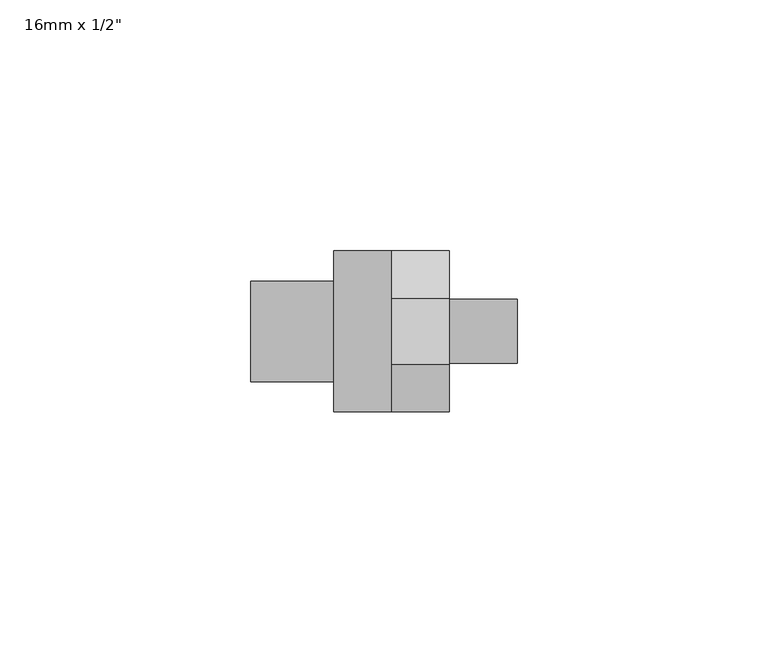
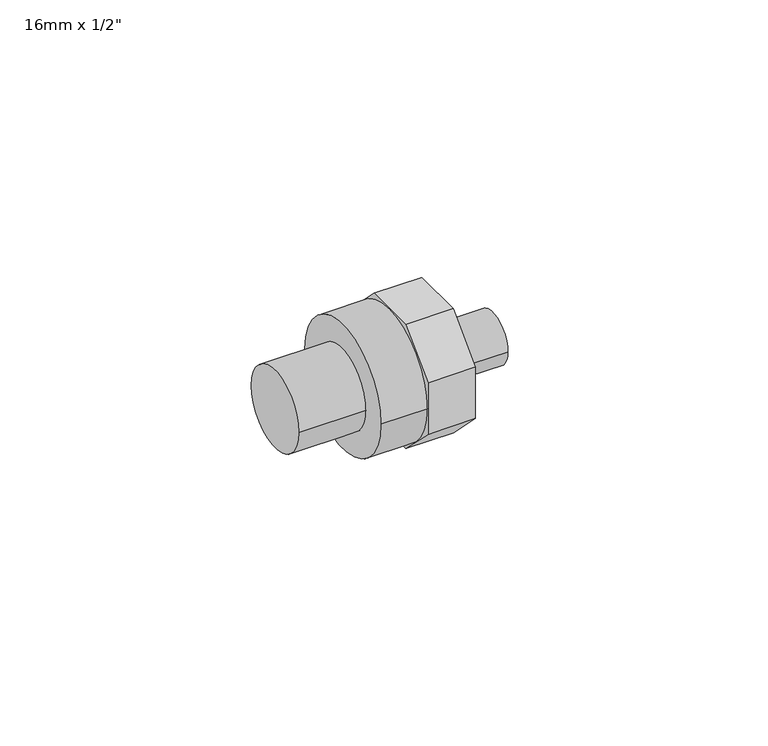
"""IFC4 building model written with IfcOpenShell, lengths in millimetres: pipe fitting geometry."""

import ifcopenshell
import ifcopenshell.guid

model = None  # the IFC model being written
_history = None  # IfcOwnerHistory: only IFC2X3 demands one
_inside = {}  # id of a spatial element -> (the spatial element, [elements in it])
_under = {}  # id of a project, library or spatial element -> (it, [spatial elements below it])
_declared = {}  # id of a project -> (the project, [libraries it declares])
_typed = {}  # id of a type object -> (the type object, [elements of that type])
_made_of = {}  # id of a material, layer set ... -> (it, [elements and type objects made of it])


def new_model(schema):
    """Start an empty IFC model of exactly this schema.

    Asked for "IFC4X3", IfcOpenShell would pick the latest addendum, in which some entities
    have other attributes; the version numbers below select the first issue.
    IFC2X3 requires an IfcOwnerHistory on every rooted entity: one is made here for all.
    """
    global model, _history
    if schema == "IFC4X3":
        model = ifcopenshell.file(schema_version=(4, 3, 0, 0))
    else:
        model = ifcopenshell.file(schema=schema)
    _inside.clear()
    _under.clear()
    _declared.clear()
    _typed.clear()
    _made_of.clear()
    _history = None
    if model.schema == "IFC2X3":
        org = make("IfcOrganization", Name="unknown")
        user = make(
            "IfcPersonAndOrganization",
            ThePerson=make("IfcPerson", FamilyName="unknown"),
            TheOrganization=org,
        )
        app = make(
            "IfcApplication",
            ApplicationDeveloper=org,
            Version="unknown",
            ApplicationFullName="unknown",
            ApplicationIdentifier="unknown",
        )
        _history = make(
            "IfcOwnerHistory",
            OwningUser=user,
            OwningApplication=app,
            ChangeAction="ADDED",
            CreationDate=0,
        )
    return model


def make(cls, **values):
    """One entity of the class cls with the attributes given. An attribute that is None is left unset."""
    return model.create_entity(
        cls, **{name: value for name, value in values.items() if value is not None}
    )


def rooted(cls, **values):
    """An entity with a GlobalId (a new one), such as an element, a storey or a relation."""
    return make(cls, GlobalId=ifcopenshell.guid.new(), OwnerHistory=_history, **values)


def si_unit(unit_type, name, prefix=None):
    """IfcSIUnit, for example si_unit("LENGTHUNIT", "METRE", prefix="MILLI")."""
    return make("IfcSIUnit", UnitType=unit_type, Prefix=prefix, Name=name)


def assignment(units):
    """IfcUnitAssignment: the units of a project."""
    return None if units is None else make("IfcUnitAssignment", Units=units)


def point(xyz):
    """IfcCartesianPoint."""
    return None if xyz is None else make("IfcCartesianPoint", Coordinates=xyz)


def direction(xyz):
    """IfcDirection."""
    return None if xyz is None else make("IfcDirection", DirectionRatios=xyz)


def frame(location, z_axis=None, x_axis=None):
    """IfcAxis2Placement3D, a coordinate frame: its origin and axes. An axis left out is left unset."""
    return make(
        "IfcAxis2Placement3D",
        Location=point(location),
        Axis=direction(z_axis),
        RefDirection=direction(x_axis),
    )


def frame_2d(location, x_axis=None):
    """IfcAxis2Placement2D, a coordinate frame in the plane: its origin and x axis."""
    return make(
        "IfcAxis2Placement2D", Location=point(location), RefDirection=direction(x_axis)
    )


def origin():
    """The frame at (0, 0, 0) with its axes left unset."""
    return frame((0.0, 0.0, 0.0))


def origin_2d():
    """The frame at (0, 0) in the plane with its x axis left unset."""
    return frame_2d((0.0, 0.0))


def place(relative_to, where):
    """IfcLocalPlacement: puts the frame where relative to a parent placement (None: the world)."""
    return make(
        "IfcLocalPlacement", PlacementRelTo=relative_to, RelativePlacement=where
    )


def context(
    kind, dimensions, precision=None, world=None, true_north=None, identifier=None
):
    """IfcGeometricRepresentationContext, for example the 3D "Model" context."""
    return make(
        "IfcGeometricRepresentationContext",
        ContextIdentifier=identifier,
        ContextType=kind,
        CoordinateSpaceDimension=dimensions,
        Precision=precision,
        WorldCoordinateSystem=world,
        TrueNorth=true_north,
    )


def project(units=None, contexts=None):
    """IfcProject with its units and contexts."""
    return rooted(
        "IfcProject",
        Name="project",
        RepresentationContexts=contexts,
        UnitsInContext=assignment(units),
    )


def spatial(cls, under=None, at=None, **own):
    """A site, building, storey or space (cls), placed at a placement, below another one or the project."""
    s = rooted(cls, ObjectPlacement=at, **own)
    if under is not None:
        _under.setdefault(under.id(), (under, []))[1].append(s)
    return s


def polyline(points):
    """IfcPolyline through the points."""
    return make("IfcPolyline", Points=[point(p) for p in points])


def circle_curve(where, radius):
    """IfcCircle in the frame where."""
    return make("IfcCircle", Position=where, Radius=radius)


def trimmed(basis, trim1, trim2, sense, master):
    """IfcTrimmedCurve: the piece of a basis curve between two trims."""
    return make(
        "IfcTrimmedCurve",
        BasisCurve=basis,
        Trim1=trim1,
        Trim2=trim2,
        SenseAgreement=sense,
        MasterRepresentation=master,
    )


def segment(curve, same_sense, transition):
    """IfcCompositeCurveSegment."""
    return make(
        "IfcCompositeCurveSegment",
        Transition=transition,
        SameSense=same_sense,
        ParentCurve=curve,
    )


def composite_curve(segments, self_intersect=None):
    """IfcCompositeCurve: segments joined end to end."""
    return make("IfcCompositeCurve", Segments=segments, SelfIntersect=self_intersect)


def outline(outer, holes=None, kind="AREA"):
    """IfcArbitraryClosedProfileDef: a profile drawn as a closed curve; with holes, ...WithVoids."""
    if holes is None:
        return make("IfcArbitraryClosedProfileDef", ProfileType=kind, OuterCurve=outer)
    return make(
        "IfcArbitraryProfileDefWithVoids",
        ProfileType=kind,
        OuterCurve=outer,
        InnerCurves=holes,
    )


def extrude(swept, where, along, depth):
    """IfcExtrudedAreaSolid: the profile swept, set in the frame where, extruded along a direction by depth."""
    return make(
        "IfcExtrudedAreaSolid",
        SweptArea=swept,
        Position=where,
        ExtrudedDirection=direction(along),
        Depth=depth,
    )


def shape(context_of_items, identifier, shape_type, items):
    """IfcShapeRepresentation: the items that make up one representation, for example the "Body"."""
    return make(
        "IfcShapeRepresentation",
        ContextOfItems=context_of_items,
        RepresentationIdentifier=identifier,
        RepresentationType=shape_type,
        Items=items,
    )


def source(mapping_origin, context_of_items, identifier, shape_type, items):
    """IfcRepresentationMap: a shape defined once, which mapped items show again and again."""
    return make(
        "IfcRepresentationMap",
        MappingOrigin=mapping_origin,
        MappedRepresentation=shape(context_of_items, identifier, shape_type, items),
    )


def transform(
    local_origin,
    x_axis=None,
    y_axis=None,
    z_axis=None,
    scale=None,
    scale2=None,
    scale3=None,
    uniform=True,
):
    """IfcCartesianTransformationOperator3D, or its non-uniform kind. x_axis, y_axis, z_axis: its Axis1, 2, 3."""
    if uniform:
        return make(
            "IfcCartesianTransformationOperator3D",
            Axis1=direction(x_axis),
            Axis2=direction(y_axis),
            LocalOrigin=point(local_origin),
            Scale=scale,
            Axis3=direction(z_axis),
        )
    return make(
        "IfcCartesianTransformationOperator3DnonUniform",
        Axis1=direction(x_axis),
        Axis2=direction(y_axis),
        LocalOrigin=point(local_origin),
        Scale=scale,
        Axis3=direction(z_axis),
        Scale2=scale2,
        Scale3=scale3,
    )


def mapped(mapping_source, mapping_target):
    """IfcMappedItem: shows the shape of a source again, moved by a transform."""
    return make(
        "IfcMappedItem", MappingSource=mapping_source, MappingTarget=mapping_target
    )


def made_of(thing, what):
    """Note that an element or type object is made of a material, layer set ...; save() writes the relation."""
    if what is not None:
        _made_of.setdefault(what.id(), (what, []))[1].append(thing)
    return thing


def element(
    cls,
    number,
    at=None,
    inside=None,
    cuts=None,
    type_object=None,
    material=None,
    context=None,
    identifier="Body",
    shape_type=None,
    held_by="IfcProductDefinitionShape",
    body=None,
    shapes=None,
    **own,
):
    """One element of the class cls, such as IfcWall. Its Tag is "e" and its number.

    at: its placement. inside: the storey or other place that contains it. cuts: it is an
    opening in that element (IfcRelVoidsElement). A single representation is given by context,
    identifier, shape_type and body (its items); several are given by shapes. held_by: the class
    of the entity that holds the representations. save() writes the other relations.
    """
    e = rooted(cls, Tag="e%d" % number, ObjectPlacement=at, **own)
    if body is not None:
        shapes = [shape(context, identifier, shape_type, body)]
    if shapes is not None:
        e.Representation = make(held_by, Representations=shapes)
    if inside is not None:
        _inside.setdefault(inside.id(), (inside, []))[1].append(e)
    if cuts is not None:
        rooted(
            "IfcRelVoidsElement", RelatingBuildingElement=cuts, RelatedOpeningElement=e
        )
    if type_object is not None:
        _typed.setdefault(type_object.id(), (type_object, []))[1].append(e)
    return made_of(e, material)


def aggregate(whole, parts):
    """IfcRelAggregates: a whole, such as a stair, and the parts it consists of."""
    return rooted("IfcRelAggregates", RelatingObject=whole, RelatedObjects=parts)


def save(model, path):
    """Write the relations noted so far, then the file.

    IfcRelAggregates (storeys below a building ...), IfcRelContainedInSpatialStructure (elements
    in a storey), IfcRelDefinesByType, IfcRelAssociatesMaterial and IfcRelDeclares: one each for
    every whole, place, type object, material and project.
    """
    for whole, parts in _under.values():
        aggregate(whole, parts)
    for where, things in _inside.values():
        rooted(
            "IfcRelContainedInSpatialStructure",
            RelatedElements=things,
            RelatingStructure=where,
        )
    for kind, things in _typed.values():
        rooted("IfcRelDefinesByType", RelatedObjects=things, RelatingType=kind)
    for what, things in _made_of.values():
        rooted("IfcRelAssociatesMaterial", RelatedObjects=things, RelatingMaterial=what)
    for by, libraries in _declared.values():
        rooted("IfcRelDeclares", RelatingContext=by, RelatedDefinitions=libraries)
    model.write(path)


def pipe_fitting_8b9ff8c4(model_context):
    return source(origin(), model_context, "Body", "SweptSolid", [
        extrude(outline(composite_curve([segment(trimmed(circle_curve(origin_2d(), 6.35), [point((-6.35, 0.0))], [point((6.35, 0.0))], False, "CARTESIAN"), True, "CONTINUOUS"), segment(trimmed(circle_curve(origin_2d(), 6.35), [point((6.35, 0.0))], [point((-6.35, 0.0))], False, "CARTESIAN"), True, "CONTINUOUS")], self_intersect=False)), frame((31.25, 0.0, 0.0), z_axis=(1.0, 0.0, 0.0), x_axis=(0.0, 1.0, 0.0)), (0.0, 0.0, 1.0), 13.5),
        extrude(outline(polyline([(6.627417, 16.0), (16.0, 6.627417), (16.0, -6.627417), (6.627417, -16.0), (-6.627417, -16.0), (-16.0, -6.627417), (-16.0, 6.627417), (-6.627417, 16.0), (6.627417, 16.0)])), frame((19.75, 0.0, 0.0), z_axis=(1.0, 0.0, 0.0), x_axis=(0.0, 1.0, 0.0)), (0.0, 0.0, 1.0), 11.5),
        extrude(outline(composite_curve([segment(trimmed(circle_curve(origin_2d(), 16.0), [point((-16.0, 0.0))], [point((16.0, 0.0))], False, "CARTESIAN"), True, "CONTINUOUS"), segment(trimmed(circle_curve(origin_2d(), 16.0), [point((16.0, 0.0))], [point((-16.0, 0.0))], False, "CARTESIAN"), True, "CONTINUOUS")], self_intersect=False)), frame((8.25, 0.0, 0.0), z_axis=(1.0, 0.0, 0.0), x_axis=(0.0, 1.0, 0.0)), (0.0, 0.0, 1.0), 11.5),
        extrude(outline(composite_curve([segment(trimmed(circle_curve(origin_2d(), 10.0), [point((-10.0, 0.0))], [point((10.0, 0.0))], False, "CARTESIAN"), True, "CONTINUOUS"), segment(trimmed(circle_curve(origin_2d(), 10.0), [point((10.0, 0.0))], [point((-10.0, 0.0))], False, "CARTESIAN"), True, "CONTINUOUS")], self_intersect=False)), frame((-8.25, 0.0, 0.0), z_axis=(1.0, 0.0, 0.0), x_axis=(0.0, 1.0, 0.0)), (0.0, 0.0, 1.0), 16.5),
    ])


if __name__ == "__main__":
    model = new_model("IFC4")
    model_context = context("Model", 3, world=origin())
    ifc_project = project(units=[si_unit("LENGTHUNIT", "METRE", prefix="MILLI")], contexts=[model_context])
    site = spatial("IfcSite", under=ifc_project)
    building = spatial("IfcBuilding", under=site)
    placement = place(None, origin())
    pipe_fitting_shape = pipe_fitting_8b9ff8c4(model_context)
    element("IfcPipeFitting", 1, ObjectType="PipeFitting_HTA_CPVC_AdaptorNipplesB : 16mm x 1/2\"", at=placement, inside=building, context=model_context, shape_type="MappedRepresentation", body=[
        mapped(pipe_fitting_shape, transform((0.0, 0.0, 0.0), x_axis=(1.0, 0.0, 0.0), y_axis=(0.0, 1.0, 0.0), z_axis=(0.0, 0.0, 1.0))),
    ])
    save(model, "model.ifc")
